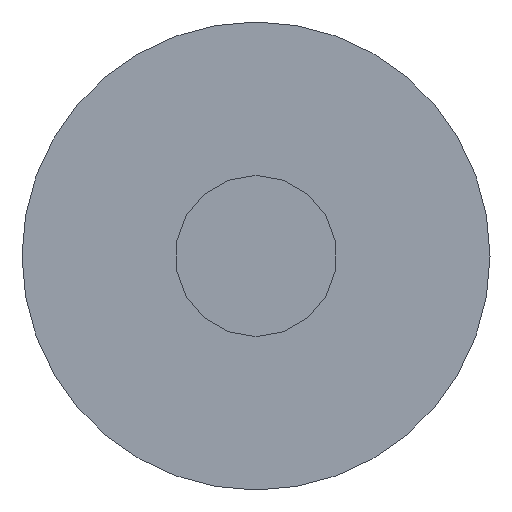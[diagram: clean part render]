
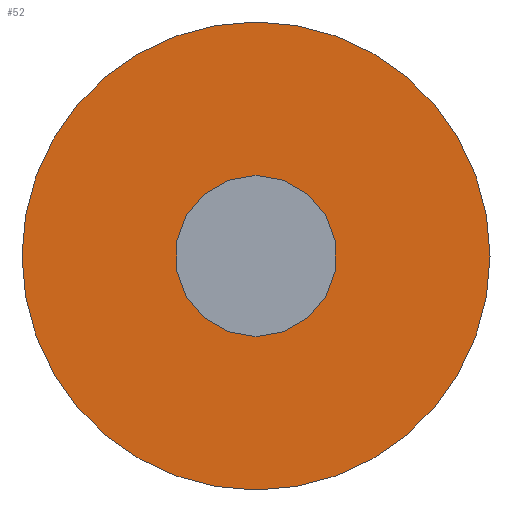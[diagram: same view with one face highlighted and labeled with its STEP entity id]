
A CAD part, left-side view. The second image highlights one B-rep face of the part: STEP entity #52.
In plain terms, the highlighted planar face has unit normal (1, 0, 0).
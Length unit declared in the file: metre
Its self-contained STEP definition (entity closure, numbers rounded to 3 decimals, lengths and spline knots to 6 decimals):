
#13=PLANE('',#65);
#19=ORIENTED_EDGE('',*,*,#21,.T.);
#20=ORIENTED_EDGE('',*,*,#23,.F.);
#21=EDGE_CURVE('NONE',#25,#25,#29,.T.);
#23=EDGE_CURVE('NONE',#27,#27,#31,.F.);
#25=VERTEX_POINT('',#87);
#27=VERTEX_POINT('',#92);
#29=CIRCLE('',#59,0.000508);
#31=CIRCLE('',#62,0.000175);
#38=EDGE_LOOP('',(#19));
#39=EDGE_LOOP('',(#20));
#45=FACE_BOUND('',#38,.T.);
#46=FACE_BOUND('',#39,.T.);
#52=ADVANCED_FACE('NONE',(#45,#46),#13,.T.);
#59=AXIS2_PLACEMENT_3D('',#86,#70,#71);
#62=AXIS2_PLACEMENT_3D('',#91,#76,#77);
#65=AXIS2_PLACEMENT_3D('',#96,#82,#83);
#70=DIRECTION('',(1.,0.,0.));
#71=DIRECTION('',(0.,0.,1.));
#76=DIRECTION('',(-1.,0.,0.));
#77=DIRECTION('',(0.,0.,-1.));
#82=DIRECTION('',(1.,0.,0.));
#83=DIRECTION('',(0.,-0.809,0.588));
#86=CARTESIAN_POINT('',(0.17689,-0.062416,0.000373));
#87=CARTESIAN_POINT('',(0.17689,-0.062416,0.000881));
#91=CARTESIAN_POINT('',(0.17689,-0.062416,0.000373));
#92=CARTESIAN_POINT('',(0.17689,-0.062416,0.000198));
#96=CARTESIAN_POINT('',(0.17689,-0.062416,0.000373));
